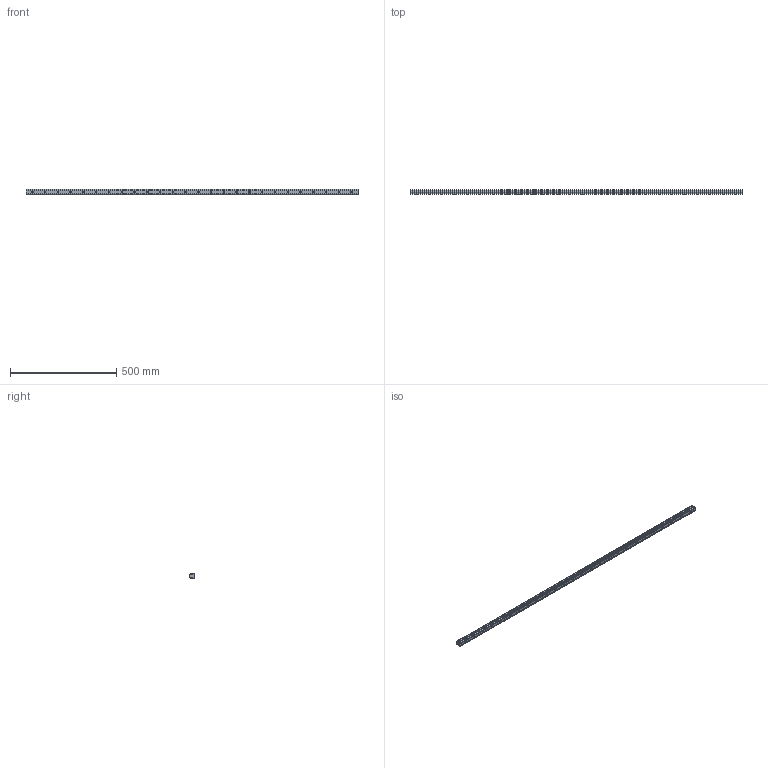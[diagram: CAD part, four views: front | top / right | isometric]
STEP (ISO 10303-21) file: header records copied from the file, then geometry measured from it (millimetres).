
FILE_DESCRIPTION (( 'STEP AP203' ), '1' );
FILE_NAME ('L1018.25R-1560.step', '2023-08-06T10:37:49', ( '' ), ( '' ), 'SwSTEP 2.0', 'SolidWorks 2019', '' );
FILE_SCHEMA (( 'CONFIG_CONTROL_DESIGN' ));
Length unit declared in the file: millimetre
Products named in the file (1): L1018.25R-1560
Bounding box: 1560 x 21.8 x 25 mm (x, y, z)
Volume: 648785.4 mm3; surface area: 155753.1 mm2
Topology: 1 solids, 1 shells, 263 faces, 601 edges, 340 vertices
Faces by surface type: cylinder 107, cone 104, plane 52
Entity records: 7082 total; most frequent: DIRECTION 1343, CARTESIAN_POINT 1153, ORIENTED_EDGE 1098, EDGE_CURVE 549, AXIS2_PLACEMENT_3D 530, VERTEX_POINT 340, EDGE_LOOP 315, VECTOR 283
